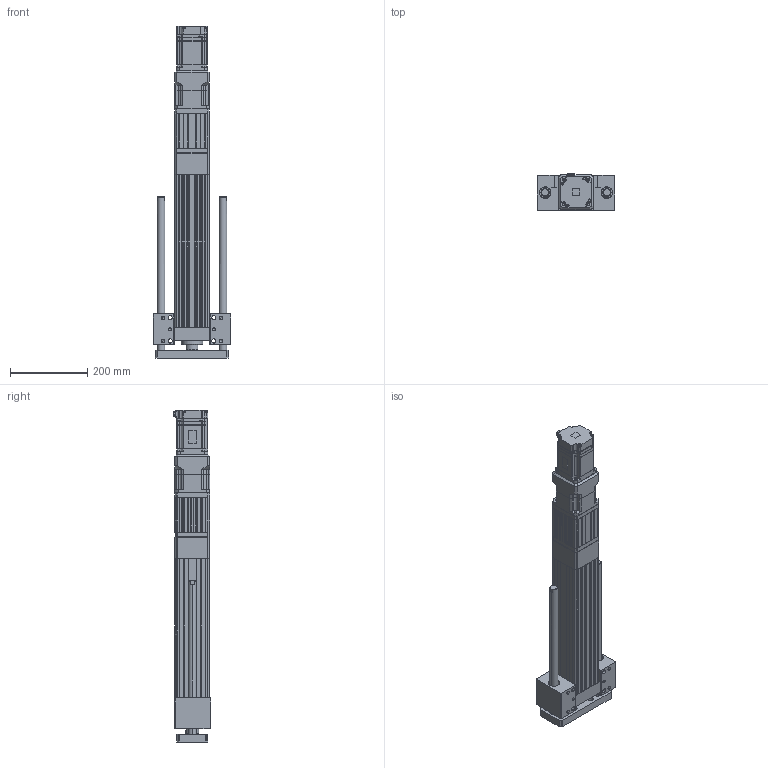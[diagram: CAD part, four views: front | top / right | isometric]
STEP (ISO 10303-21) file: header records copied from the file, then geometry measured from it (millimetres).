
FILE_DESCRIPTION (( 'STEP AP203' ), '1' );
FILE_NAME ('ANS090H-HS250-05(10)(25)-W75G05.STEP', '2019-03-18T03:24:18', ( 'user' ), ( '' ), 'SwSTEP 2.0', 'SolidWorks 2013', '' );
FILE_SCHEMA (( 'CONFIG_CONTROL_DESIGN' ));
Length unit declared in the file: millimetre
Products named in the file (5): ANS090H HS250 VER2; ANS090 ROD ST250-H; SGMJV_08A_A21; AB090-005-S1-P2[YASKAWA SGMJV08A]; ANS090H-HS250-05(10)(25)-W75G05
Assembly tree (4 placements, depth 2):
  ANS090H-HS250-05(10)(25)-W75G05
    ANS090H HS250 VER2
    ANS090 ROD ST250-H
    SGMJV_08A_A21
    AB090-005-S1-P2[YASKAWA SGMJV08A]
Bounding box: 200 x 95.8 x 858.1 mm (x, y, z)
Volume: 4549070.9 mm3; surface area: 796695.3 mm2
Topology: 3 solids, 10 shells, 1749 faces, 4692 edges, 3042 vertices
Faces by surface type: plane 1030, cylinder 559, cone 148, bspline 12
Entity records: 55250 total; most frequent: CARTESIAN_POINT 10492, ORIENTED_EDGE 9248, DIRECTION 9165, EDGE_CURVE 4668, LINE 3271, VECTOR 3271, VERTEX_POINT 3042, AXIS2_PLACEMENT_3D 2947
